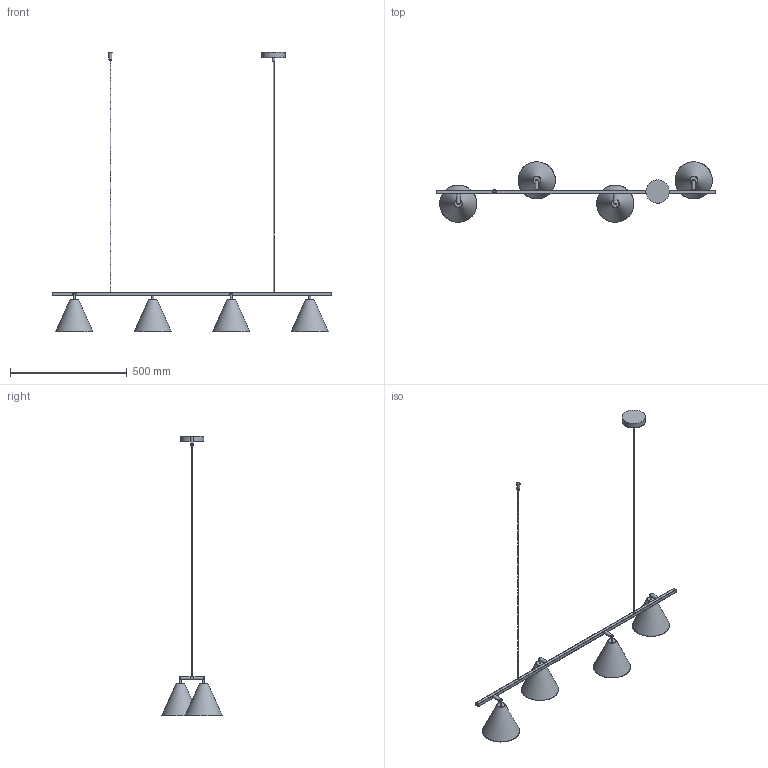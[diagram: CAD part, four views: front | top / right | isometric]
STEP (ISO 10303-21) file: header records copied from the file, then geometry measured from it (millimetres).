
FILE_DESCRIPTION ((), '1');
FILE_NAME ('C:\Users\MiCHAL\Desktop\ALDEX - Modele 3D 09.03.2023\1108L1\1108L16\1108L16.stp', '2023-03-30T11:15:19', ('Unknown'), ('Unknown'), 'HarmonyWare STEP v2.1.4', 'HarmonyWare Translators', '');
FILE_SCHEMA (('CONFIG_CONTROL_DESIGN'));
Length unit declared in the file: centimetre
Assembly tree (30 placements, depth 2):
  (unnamed)
    (unnamed)
    (unnamed)
    (unnamed)
    (unnamed)
    (unnamed)
    (unnamed)
    (unnamed)
    (unnamed)
    (unnamed)
    (unnamed)
    (unnamed)
    (unnamed)
    (unnamed)
    (unnamed)
    (unnamed)
    (unnamed)
    (unnamed)
    (unnamed)
    (unnamed)
    (unnamed)
    (unnamed)
    (unnamed)
    (unnamed)
    (unnamed)
    (unnamed)
    (unnamed)
    (unnamed)
    (unnamed)
    (unnamed)
    (unnamed)
Bounding box: 1200 x 259.32 x 1200.41 mm (x, y, z)
Volume: 533539.4 mm3; surface area: 514435.5 mm2
Topology: 22 solids, 30 shells, 120 faces, 209 edges, 134 vertices
Faces by surface type: bspline 120
Entity records: 11269 total; most frequent: CARTESIAN_POINT 5589, ORIENTED_EDGE 338, PERSON 308, ORGANIZATION 308, PERSON_AND_ORGANIZATION 308, CALENDAR_DATE 215, COORDINATED_UNIVERSAL_TIME_OFFSET 215, LOCAL_TIME 215
